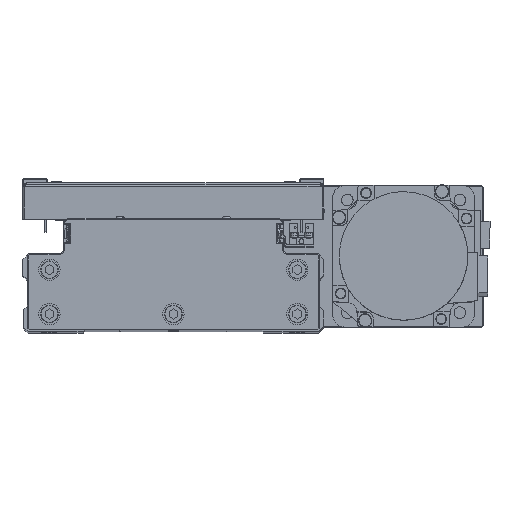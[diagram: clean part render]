
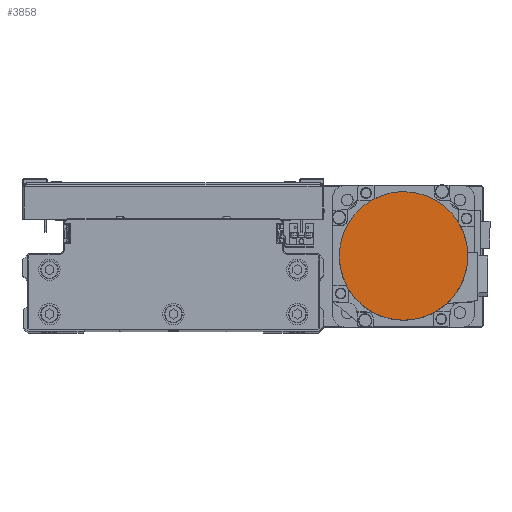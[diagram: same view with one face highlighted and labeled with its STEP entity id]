
A CAD part, top view. The second image highlights one B-rep face of the part: STEP entity #3858.
In plain terms, the highlighted planar face has unit normal (0, 0, 1) as drawn and (0, 0, -1) by its records, which use the part's own axes.
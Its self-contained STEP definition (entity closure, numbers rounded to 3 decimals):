
#172 = FACE_OUTER_BOUND ( 'NONE', #2139, .T. ) ;
#293 = CARTESIAN_POINT ( 'NONE',  ( -35.139, -9.412, -122.2 ) ) ;
#496 = ORIENTED_EDGE ( 'NONE', *, *, #15936, .F. ) ;
#515 = CARTESIAN_POINT ( 'NONE',  ( -2.376, -36.3, -122.2 ) ) ;
#751 = CARTESIAN_POINT ( 'NONE',  ( -4.752, 36.066, -122.2 ) ) ;
#971 = CARTESIAN_POINT ( 'NONE',  ( -36.066, 4.752, -122.2 ) ) ;
#1390 = EDGE_CURVE ( 'NONE', #18571, #14669, #34621, .T. ) ;
#2113 = VERTEX_POINT ( 'NONE', #10263 ) ;
#2139 = EDGE_LOOP ( 'NONE', ( #30658, #33910, #7780, #496 ) ) ;
#3647 = CARTESIAN_POINT ( 'NONE',  ( -36.3, 0., -122.2 ) ) ;
#3858 = ADVANCED_FACE ( 'NONE', ( #172 ), #13810, .F. ) ;
#3863 = CARTESIAN_POINT ( 'NONE',  ( -11.696, -34.446, -122.2 ) ) ;
#4005 = EDGE_CURVE ( 'NONE', #2113, #16852, #41952, .T. ) ;
#4330 = CARTESIAN_POINT ( 'NONE',  ( -32.628, 16.086, -122.2 ) ) ;
#6382 = DIRECTION ( 'NONE',  ( -1., 0., 0. ) ) ;
#7212 = CARTESIAN_POINT ( 'NONE',  ( -22.143, -28.862, -122.2 ) ) ;
#7672 = CARTESIAN_POINT ( 'NONE',  ( -27.348, 23.988, -122.2 ) ) ;
#7780 = ORIENTED_EDGE ( 'NONE', *, *, #1390, .F. ) ;
#8134 = CARTESIAN_POINT ( 'NONE',  ( 0., 36.3, -122.2 ) ) ;
#9974 = B_SPLINE_CURVE_WITH_KNOTS ( 'NONE', 3,
 ( #3647, #17306, #30939, #293, #13933, #27587, #41205, #10567, #24247, #37860, #7212, #20888, #34518, #3863, #17529, #31162, #515, #14164 ),
 .UNSPECIFIED., .F., .F.,
 ( 4, 2, 2, 2, 2, 2, 2, 2, 4 ),
 ( 0., 0.125, 0.25, 0.375, 0.5, 0.625, 0.75, 0.875, 1. ),
 .UNSPECIFIED. ) ;
#10263 = CARTESIAN_POINT ( 'NONE',  ( 0., -36.3, -122.2 ) ) ;
#10435 = DIRECTION ( 'NONE',  ( 1., 0., 0. ) ) ;
#10567 = CARTESIAN_POINT ( 'NONE',  ( -28.862, -22.143, -122.2 ) ) ;
#11012 = CARTESIAN_POINT ( 'NONE',  ( -18.192, 31.502, -122.2 ) ) ;
#11074 = CARTESIAN_POINT ( 'NONE',  ( 0., 0., -122.2 ) ) ;
#11668 = AXIS2_PLACEMENT_3D ( 'NONE', #11074, #24758, #38366 ) ;
#12409 = EDGE_CURVE ( 'NONE', #14669, #2113, #9974, .T. ) ;
#13810 = PLANE ( 'NONE',  #34826 ) ;
#13933 = CARTESIAN_POINT ( 'NONE',  ( -34.446, -11.696, -122.2 ) ) ;
#14164 = CARTESIAN_POINT ( 'NONE',  ( 0., -36.3, -122.2 ) ) ;
#14403 = CARTESIAN_POINT ( 'NONE',  ( -9.412, 35.139, -122.2 ) ) ;
#14613 = CARTESIAN_POINT ( 'NONE',  ( -36.3, 2.376, -122.2 ) ) ;
#14669 = VERTEX_POINT ( 'NONE', #15174 ) ;
#15174 = CARTESIAN_POINT ( 'NONE',  ( -36.3, 0., -122.2 ) ) ;
#15936 = EDGE_CURVE ( 'NONE', #16852, #18571, #30957, .T. ) ;
#16852 = VERTEX_POINT ( 'NONE', #27897 ) ;
#17306 = CARTESIAN_POINT ( 'NONE',  ( -36.3, -2.376, -122.2 ) ) ;
#17529 = CARTESIAN_POINT ( 'NONE',  ( -9.412, -35.139, -122.2 ) ) ;
#17766 = CARTESIAN_POINT ( 'NONE',  ( 0., 36.3, -122.2 ) ) ;
#17989 = CARTESIAN_POINT ( 'NONE',  ( -34.446, 11.696, -122.2 ) ) ;
#18571 = VERTEX_POINT ( 'NONE', #8134 ) ;
#20888 = CARTESIAN_POINT ( 'NONE',  ( -18.192, -31.502, -122.2 ) ) ;
#21346 = CARTESIAN_POINT ( 'NONE',  ( -28.862, 22.143, -122.2 ) ) ;
#22712 = AXIS2_PLACEMENT_3D ( 'NONE', #23413, #37025, #6382 ) ;
#23413 = CARTESIAN_POINT ( 'NONE',  ( 0., 0., -122.2 ) ) ;
#24247 = CARTESIAN_POINT ( 'NONE',  ( -27.348, -23.988, -122.2 ) ) ;
#24701 = CARTESIAN_POINT ( 'NONE',  ( -22.143, 28.862, -122.2 ) ) ;
#24758 = DIRECTION ( 'NONE',  ( 0., 0., 1. ) ) ;
#27449 = CARTESIAN_POINT ( 'NONE',  ( 0., 0., -122.2 ) ) ;
#27587 = CARTESIAN_POINT ( 'NONE',  ( -32.628, -16.086, -122.2 ) ) ;
#27897 = CARTESIAN_POINT ( 'NONE',  ( 36.3, 0., -122.2 ) ) ;
#28042 = CARTESIAN_POINT ( 'NONE',  ( -11.696, 34.446, -122.2 ) ) ;
#28261 = CARTESIAN_POINT ( 'NONE',  ( -36.3, 0., -122.2 ) ) ;
#30658 = ORIENTED_EDGE ( 'NONE', *, *, #4005, .F. ) ;
#30939 = CARTESIAN_POINT ( 'NONE',  ( -36.066, -4.752, -122.2 ) ) ;
#30957 = CIRCLE ( 'NONE', #11668, 36.3 ) ;
#31162 = CARTESIAN_POINT ( 'NONE',  ( -4.752, -36.066, -122.2 ) ) ;
#31405 = CARTESIAN_POINT ( 'NONE',  ( -2.376, 36.3, -122.2 ) ) ;
#31630 = CARTESIAN_POINT ( 'NONE',  ( -35.139, 9.412, -122.2 ) ) ;
#33910 = ORIENTED_EDGE ( 'NONE', *, *, #12409, .F. ) ;
#34518 = CARTESIAN_POINT ( 'NONE',  ( -16.086, -32.628, -122.2 ) ) ;
#34621 = B_SPLINE_CURVE_WITH_KNOTS ( 'NONE', 3,
 ( #17766, #31405, #751, #14403, #28042, #41657, #11012, #24701, #38312, #7672, #21346, #34979, #4330, #17989, #31630, #971, #14613, #28261 ),
 .UNSPECIFIED., .F., .F.,
 ( 4, 2, 2, 2, 2, 2, 2, 2, 4 ),
 ( 0., 0.125, 0.25, 0.375, 0.5, 0.625, 0.75, 0.875, 1. ),
 .UNSPECIFIED. ) ;
#34826 = AXIS2_PLACEMENT_3D ( 'NONE', #27449, #41071, #10435 ) ;
#34979 = CARTESIAN_POINT ( 'NONE',  ( -31.502, 18.192, -122.2 ) ) ;
#37025 = DIRECTION ( 'NONE',  ( 0., 0., 1. ) ) ;
#37860 = CARTESIAN_POINT ( 'NONE',  ( -23.988, -27.348, -122.2 ) ) ;
#38312 = CARTESIAN_POINT ( 'NONE',  ( -23.988, 27.348, -122.2 ) ) ;
#38366 = DIRECTION ( 'NONE',  ( -1., 0., 0. ) ) ;
#41071 = DIRECTION ( 'NONE',  ( 0., 0., 1. ) ) ;
#41205 = CARTESIAN_POINT ( 'NONE',  ( -31.502, -18.192, -122.2 ) ) ;
#41657 = CARTESIAN_POINT ( 'NONE',  ( -16.086, 32.628, -122.2 ) ) ;
#41952 = CIRCLE ( 'NONE', #22712, 36.3 ) ;
